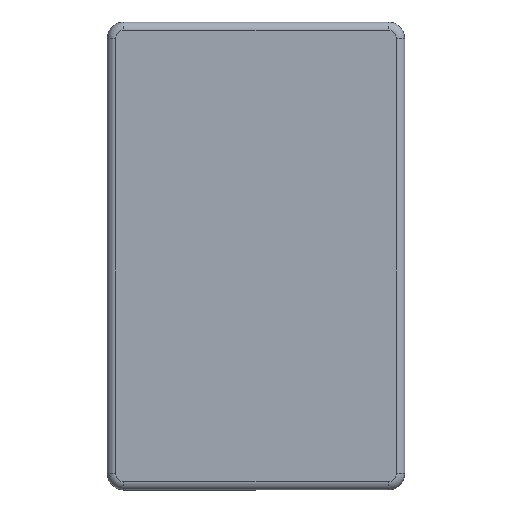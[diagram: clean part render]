
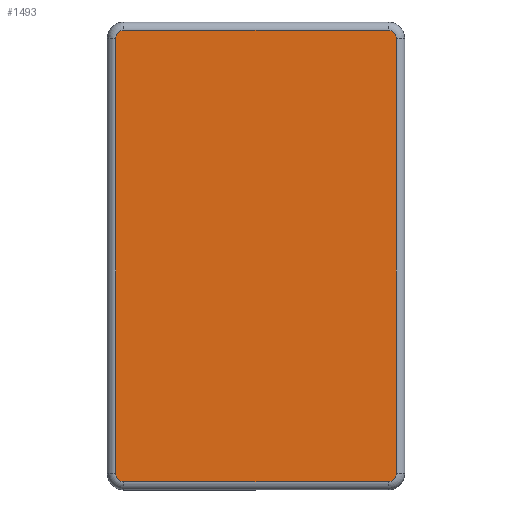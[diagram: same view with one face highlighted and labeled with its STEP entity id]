
A CAD part, top view. The second image highlights one B-rep face of the part: STEP entity #1493.
In plain terms, the highlighted planar face has unit normal (0, 0, 1).
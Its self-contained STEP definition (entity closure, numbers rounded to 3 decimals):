
#50 = PLANE ( 'NONE',  #733 ) ;
#246 = VERTEX_POINT ( 'NONE', #3500 ) ;
#282 = AXIS2_PLACEMENT_3D ( 'NONE', #2085, #2750, #838 ) ;
#318 = EDGE_CURVE ( 'NONE', #2801, #1499, #3233, .T. ) ;
#375 = CARTESIAN_POINT ( 'NONE',  ( -25.47, -39.45, 3.2 ) ) ;
#538 = VERTEX_POINT ( 'NONE', #3594 ) ;
#575 = VERTEX_POINT ( 'NONE', #2063 ) ;
#733 = AXIS2_PLACEMENT_3D ( 'NONE', #3217, #3847, #995 ) ;
#754 = AXIS2_PLACEMENT_3D ( 'NONE', #1846, #2855, #903 ) ;
#818 = CARTESIAN_POINT ( 'NONE',  ( 25.47, 39.45, 3.2 ) ) ;
#838 = DIRECTION ( 'NONE',  ( -1., 0., 0. ) ) ;
#903 = DIRECTION ( 'NONE',  ( -1., 0., 0. ) ) ;
#917 = CARTESIAN_POINT ( 'NONE',  ( -24., -40.92, 3.2 ) ) ;
#927 = ORIENTED_EDGE ( 'NONE', *, *, #3137, .T. ) ;
#995 = DIRECTION ( 'NONE',  ( -1., 0., 0. ) ) ;
#1000 = CIRCLE ( 'NONE', #754, 1.47 ) ;
#1246 = VECTOR ( 'NONE', #2127, 1000. ) ;
#1296 = CIRCLE ( 'NONE', #1470, 1.47 ) ;
#1302 = VECTOR ( 'NONE', #1341, 1000. ) ;
#1341 = DIRECTION ( 'NONE',  ( -1., 0., 0. ) ) ;
#1395 = LINE ( 'NONE', #1839, #1246 ) ;
#1470 = AXIS2_PLACEMENT_3D ( 'NONE', #3876, #2281, #2961 ) ;
#1493 = ADVANCED_FACE ( 'NONE', ( #2540 ), #50, .F. ) ;
#1499 = VERTEX_POINT ( 'NONE', #3866 ) ;
#1501 = VECTOR ( 'NONE', #3061, 1000. ) ;
#1634 = CARTESIAN_POINT ( 'NONE',  ( 24., 39.45, 3.2 ) ) ;
#1689 = ORIENTED_EDGE ( 'NONE', *, *, #2868, .T. ) ;
#1704 = CARTESIAN_POINT ( 'NONE',  ( -24., 40.92, 3.2 ) ) ;
#1839 = CARTESIAN_POINT ( 'NONE',  ( -25.47, -39.45, 3.2 ) ) ;
#1846 = CARTESIAN_POINT ( 'NONE',  ( -24., 39.45, 3.2 ) ) ;
#1868 = DIRECTION ( 'NONE',  ( 1., 0., 0. ) ) ;
#1891 = VERTEX_POINT ( 'NONE', #375 ) ;
#1967 = DIRECTION ( 'NONE',  ( -1., 0., 0. ) ) ;
#2011 = DIRECTION ( 'NONE',  ( 0., 0., 1. ) ) ;
#2063 = CARTESIAN_POINT ( 'NONE',  ( 25.47, -39.45, 3.2 ) ) ;
#2085 = CARTESIAN_POINT ( 'NONE',  ( 24., -39.45, 3.2 ) ) ;
#2127 = DIRECTION ( 'NONE',  ( 0., -1., 0. ) ) ;
#2195 = ORIENTED_EDGE ( 'NONE', *, *, #2388, .T. ) ;
#2281 = DIRECTION ( 'NONE',  ( 0., 0., 1. ) ) ;
#2317 = EDGE_LOOP ( 'NONE', ( #3428, #2420, #927, #1689, #3429, #3394, #3746, #2195 ) ) ;
#2387 = VECTOR ( 'NONE', #1868, 1000. ) ;
#2388 = EDGE_CURVE ( 'NONE', #1499, #575, #3096, .T. ) ;
#2420 = ORIENTED_EDGE ( 'NONE', *, *, #2655, .T. ) ;
#2540 = FACE_OUTER_BOUND ( 'NONE', #2317, .T. ) ;
#2625 = CIRCLE ( 'NONE', #4006, 1.47 ) ;
#2646 = LINE ( 'NONE', #818, #1501 ) ;
#2655 = EDGE_CURVE ( 'NONE', #246, #3868, #2625, .T. ) ;
#2697 = LINE ( 'NONE', #1704, #1302 ) ;
#2750 = DIRECTION ( 'NONE',  ( 0., 0., 1. ) ) ;
#2801 = VERTEX_POINT ( 'NONE', #917 ) ;
#2855 = DIRECTION ( 'NONE',  ( 0., 0., 1. ) ) ;
#2868 = EDGE_CURVE ( 'NONE', #3358, #538, #1000, .T. ) ;
#2961 = DIRECTION ( 'NONE',  ( -1., 0., 0. ) ) ;
#3061 = DIRECTION ( 'NONE',  ( 0., 1., 0. ) ) ;
#3096 = CIRCLE ( 'NONE', #282, 1.47 ) ;
#3137 = EDGE_CURVE ( 'NONE', #3868, #3358, #2697, .T. ) ;
#3212 = EDGE_CURVE ( 'NONE', #575, #246, #2646, .T. ) ;
#3217 = CARTESIAN_POINT ( 'NONE',  ( -24., 39.45, 3.2 ) ) ;
#3233 = LINE ( 'NONE', #3752, #2387 ) ;
#3358 = VERTEX_POINT ( 'NONE', #3664 ) ;
#3394 = ORIENTED_EDGE ( 'NONE', *, *, #3830, .T. ) ;
#3428 = ORIENTED_EDGE ( 'NONE', *, *, #3212, .T. ) ;
#3429 = ORIENTED_EDGE ( 'NONE', *, *, #3581, .T. ) ;
#3500 = CARTESIAN_POINT ( 'NONE',  ( 25.47, 39.45, 3.2 ) ) ;
#3528 = CARTESIAN_POINT ( 'NONE',  ( 24., 40.92, 3.2 ) ) ;
#3581 = EDGE_CURVE ( 'NONE', #538, #1891, #1395, .T. ) ;
#3594 = CARTESIAN_POINT ( 'NONE',  ( -25.47, 39.45, 3.2 ) ) ;
#3664 = CARTESIAN_POINT ( 'NONE',  ( -24., 40.92, 3.2 ) ) ;
#3746 = ORIENTED_EDGE ( 'NONE', *, *, #318, .T. ) ;
#3752 = CARTESIAN_POINT ( 'NONE',  ( 24., -40.92, 3.2 ) ) ;
#3830 = EDGE_CURVE ( 'NONE', #1891, #2801, #1296, .T. ) ;
#3847 = DIRECTION ( 'NONE',  ( 0., 0., -1. ) ) ;
#3866 = CARTESIAN_POINT ( 'NONE',  ( 24., -40.92, 3.2 ) ) ;
#3868 = VERTEX_POINT ( 'NONE', #3528 ) ;
#3876 = CARTESIAN_POINT ( 'NONE',  ( -24., -39.45, 3.2 ) ) ;
#4006 = AXIS2_PLACEMENT_3D ( 'NONE', #1634, #2011, #1967 ) ;
